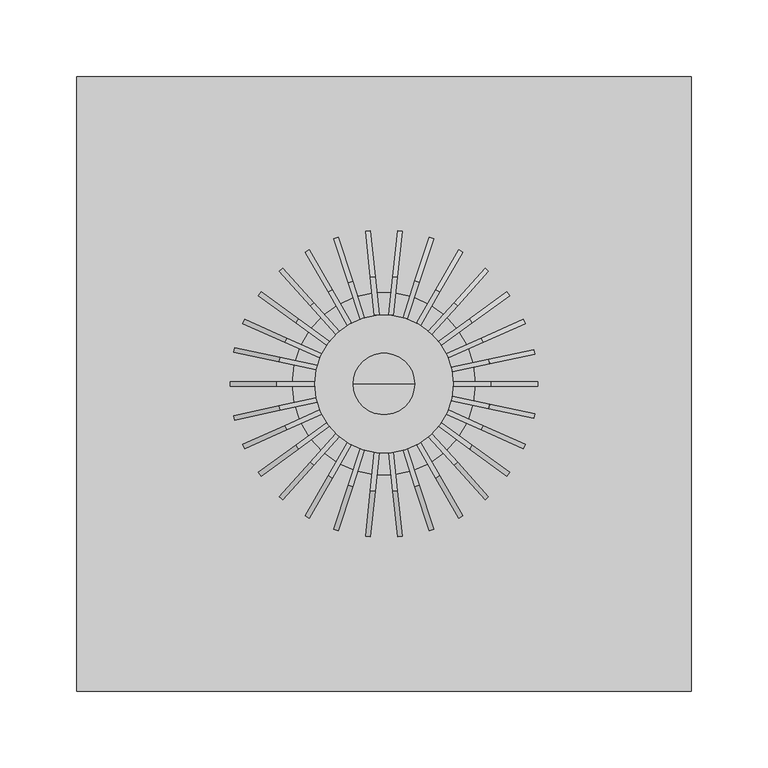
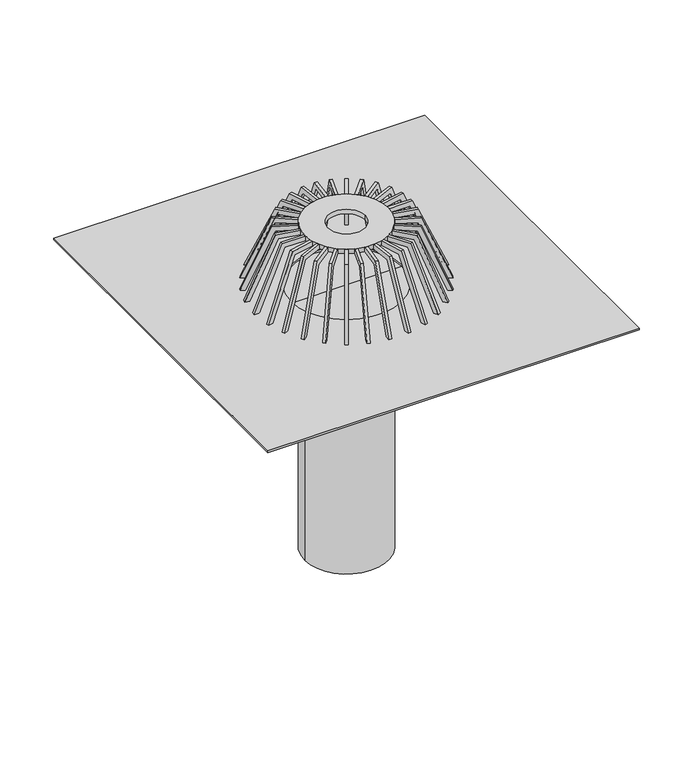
"""IFC4 building model written with IfcOpenShell, lengths in millimetres: sanitary terminal geometry, NLRS_52_PF_LB_trechter met aansluitplaat ø90mm_geb : d90 - 5.5L/s."""

import ifcopenshell
import ifcopenshell.guid

model = None  # the IFC model being written
_history = None  # IfcOwnerHistory: only IFC2X3 demands one
_inside = {}  # id of a spatial element -> (the spatial element, [elements in it])
_under = {}  # id of a project, library or spatial element -> (it, [spatial elements below it])
_declared = {}  # id of a project -> (the project, [libraries it declares])
_typed = {}  # id of a type object -> (the type object, [elements of that type])
_made_of = {}  # id of a material, layer set ... -> (it, [elements and type objects made of it])


def new_model(schema):
    """Start an empty IFC model of exactly this schema.

    Asked for "IFC4X3", IfcOpenShell would pick the latest addendum, in which some entities
    have other attributes; the version numbers below select the first issue.
    IFC2X3 requires an IfcOwnerHistory on every rooted entity: one is made here for all.
    """
    global model, _history
    if schema == "IFC4X3":
        model = ifcopenshell.file(schema_version=(4, 3, 0, 0))
    else:
        model = ifcopenshell.file(schema=schema)
    _inside.clear()
    _under.clear()
    _declared.clear()
    _typed.clear()
    _made_of.clear()
    _history = None
    if model.schema == "IFC2X3":
        org = make("IfcOrganization", Name="unknown")
        user = make(
            "IfcPersonAndOrganization",
            ThePerson=make("IfcPerson", FamilyName="unknown"),
            TheOrganization=org,
        )
        app = make(
            "IfcApplication",
            ApplicationDeveloper=org,
            Version="unknown",
            ApplicationFullName="unknown",
            ApplicationIdentifier="unknown",
        )
        _history = make(
            "IfcOwnerHistory",
            OwningUser=user,
            OwningApplication=app,
            ChangeAction="ADDED",
            CreationDate=0,
        )
    return model


def make(cls, **values):
    """One entity of the class cls with the attributes given. An attribute that is None is left unset."""
    return model.create_entity(
        cls, **{name: value for name, value in values.items() if value is not None}
    )


def rooted(cls, **values):
    """An entity with a GlobalId (a new one), such as an element, a storey or a relation."""
    return make(cls, GlobalId=ifcopenshell.guid.new(), OwnerHistory=_history, **values)


def si_unit(unit_type, name, prefix=None):
    """IfcSIUnit, for example si_unit("LENGTHUNIT", "METRE", prefix="MILLI")."""
    return make("IfcSIUnit", UnitType=unit_type, Prefix=prefix, Name=name)


def assignment(units):
    """IfcUnitAssignment: the units of a project."""
    return None if units is None else make("IfcUnitAssignment", Units=units)


def point(xyz):
    """IfcCartesianPoint."""
    return None if xyz is None else make("IfcCartesianPoint", Coordinates=xyz)


def direction(xyz):
    """IfcDirection."""
    return None if xyz is None else make("IfcDirection", DirectionRatios=xyz)


def frame(location, z_axis=None, x_axis=None):
    """IfcAxis2Placement3D, a coordinate frame: its origin and axes. An axis left out is left unset."""
    return make(
        "IfcAxis2Placement3D",
        Location=point(location),
        Axis=direction(z_axis),
        RefDirection=direction(x_axis),
    )


def frame_2d(location, x_axis=None):
    """IfcAxis2Placement2D, a coordinate frame in the plane: its origin and x axis."""
    return make(
        "IfcAxis2Placement2D", Location=point(location), RefDirection=direction(x_axis)
    )


def origin():
    """The frame at (0, 0, 0) with its axes left unset."""
    return frame((0.0, 0.0, 0.0))


def origin_2d():
    """The frame at (0, 0) in the plane with its x axis left unset."""
    return frame_2d((0.0, 0.0))


def place(relative_to, where):
    """IfcLocalPlacement: puts the frame where relative to a parent placement (None: the world)."""
    return make(
        "IfcLocalPlacement", PlacementRelTo=relative_to, RelativePlacement=where
    )


def context(
    kind, dimensions, precision=None, world=None, true_north=None, identifier=None
):
    """IfcGeometricRepresentationContext, for example the 3D "Model" context."""
    return make(
        "IfcGeometricRepresentationContext",
        ContextIdentifier=identifier,
        ContextType=kind,
        CoordinateSpaceDimension=dimensions,
        Precision=precision,
        WorldCoordinateSystem=world,
        TrueNorth=true_north,
    )


def project(units=None, contexts=None):
    """IfcProject with its units and contexts."""
    return rooted(
        "IfcProject",
        Name="project",
        RepresentationContexts=contexts,
        UnitsInContext=assignment(units),
    )


def spatial(cls, under=None, at=None, **own):
    """A site, building, storey or space (cls), placed at a placement, below another one or the project."""
    s = rooted(cls, ObjectPlacement=at, **own)
    if under is not None:
        _under.setdefault(under.id(), (under, []))[1].append(s)
    return s


def polyline(points):
    """IfcPolyline through the points."""
    return make("IfcPolyline", Points=[point(p) for p in points])


def circle_curve(where, radius):
    """IfcCircle in the frame where."""
    return make("IfcCircle", Position=where, Radius=radius)


def trimmed(basis, trim1, trim2, sense, master):
    """IfcTrimmedCurve: the piece of a basis curve between two trims."""
    return make(
        "IfcTrimmedCurve",
        BasisCurve=basis,
        Trim1=trim1,
        Trim2=trim2,
        SenseAgreement=sense,
        MasterRepresentation=master,
    )


def segment(curve, same_sense, transition):
    """IfcCompositeCurveSegment."""
    return make(
        "IfcCompositeCurveSegment",
        Transition=transition,
        SameSense=same_sense,
        ParentCurve=curve,
    )


def composite_curve(segments, self_intersect=None):
    """IfcCompositeCurve: segments joined end to end."""
    return make("IfcCompositeCurve", Segments=segments, SelfIntersect=self_intersect)


def outline(outer, holes=None, kind="AREA"):
    """IfcArbitraryClosedProfileDef: a profile drawn as a closed curve; with holes, ...WithVoids."""
    if holes is None:
        return make("IfcArbitraryClosedProfileDef", ProfileType=kind, OuterCurve=outer)
    return make(
        "IfcArbitraryProfileDefWithVoids",
        ProfileType=kind,
        OuterCurve=outer,
        InnerCurves=holes,
    )


def extrude(swept, where, along, depth):
    """IfcExtrudedAreaSolid: the profile swept, set in the frame where, extruded along a direction by depth."""
    return make(
        "IfcExtrudedAreaSolid",
        SweptArea=swept,
        Position=where,
        ExtrudedDirection=direction(along),
        Depth=depth,
    )


def shape(context_of_items, identifier, shape_type, items):
    """IfcShapeRepresentation: the items that make up one representation, for example the "Body"."""
    return make(
        "IfcShapeRepresentation",
        ContextOfItems=context_of_items,
        RepresentationIdentifier=identifier,
        RepresentationType=shape_type,
        Items=items,
    )


def source(mapping_origin, context_of_items, identifier, shape_type, items):
    """IfcRepresentationMap: a shape defined once, which mapped items show again and again."""
    return make(
        "IfcRepresentationMap",
        MappingOrigin=mapping_origin,
        MappedRepresentation=shape(context_of_items, identifier, shape_type, items),
    )


def transform(
    local_origin,
    x_axis=None,
    y_axis=None,
    z_axis=None,
    scale=None,
    scale2=None,
    scale3=None,
    uniform=True,
):
    """IfcCartesianTransformationOperator3D, or its non-uniform kind. x_axis, y_axis, z_axis: its Axis1, 2, 3."""
    if uniform:
        return make(
            "IfcCartesianTransformationOperator3D",
            Axis1=direction(x_axis),
            Axis2=direction(y_axis),
            LocalOrigin=point(local_origin),
            Scale=scale,
            Axis3=direction(z_axis),
        )
    return make(
        "IfcCartesianTransformationOperator3DnonUniform",
        Axis1=direction(x_axis),
        Axis2=direction(y_axis),
        LocalOrigin=point(local_origin),
        Scale=scale,
        Axis3=direction(z_axis),
        Scale2=scale2,
        Scale3=scale3,
    )


def mapped(mapping_source, mapping_target):
    """IfcMappedItem: shows the shape of a source again, moved by a transform."""
    return make(
        "IfcMappedItem", MappingSource=mapping_source, MappingTarget=mapping_target
    )


def made_of(thing, what):
    """Note that an element or type object is made of a material, layer set ...; save() writes the relation."""
    if what is not None:
        _made_of.setdefault(what.id(), (what, []))[1].append(thing)
    return thing


def element(
    cls,
    number,
    at=None,
    inside=None,
    cuts=None,
    type_object=None,
    material=None,
    context=None,
    identifier="Body",
    shape_type=None,
    held_by="IfcProductDefinitionShape",
    body=None,
    shapes=None,
    **own,
):
    """One element of the class cls, such as IfcWall. Its Tag is "e" and its number.

    at: its placement. inside: the storey or other place that contains it. cuts: it is an
    opening in that element (IfcRelVoidsElement). A single representation is given by context,
    identifier, shape_type and body (its items); several are given by shapes. held_by: the class
    of the entity that holds the representations. save() writes the other relations.
    """
    e = rooted(cls, Tag="e%d" % number, ObjectPlacement=at, **own)
    if body is not None:
        shapes = [shape(context, identifier, shape_type, body)]
    if shapes is not None:
        e.Representation = make(held_by, Representations=shapes)
    if inside is not None:
        _inside.setdefault(inside.id(), (inside, []))[1].append(e)
    if cuts is not None:
        rooted(
            "IfcRelVoidsElement", RelatingBuildingElement=cuts, RelatedOpeningElement=e
        )
    if type_object is not None:
        _typed.setdefault(type_object.id(), (type_object, []))[1].append(e)
    return made_of(e, material)


def aggregate(whole, parts):
    """IfcRelAggregates: a whole, such as a stair, and the parts it consists of."""
    return rooted("IfcRelAggregates", RelatingObject=whole, RelatedObjects=parts)


def save(model, path):
    """Write the relations noted so far, then the file.

    IfcRelAggregates (storeys below a building ...), IfcRelContainedInSpatialStructure (elements
    in a storey), IfcRelDefinesByType, IfcRelAssociatesMaterial and IfcRelDeclares: one each for
    every whole, place, type object, material and project.
    """
    for whole, parts in _under.values():
        aggregate(whole, parts)
    for where, things in _inside.values():
        rooted(
            "IfcRelContainedInSpatialStructure",
            RelatedElements=things,
            RelatingStructure=where,
        )
    for kind, things in _typed.values():
        rooted("IfcRelDefinesByType", RelatedObjects=things, RelatingType=kind)
    for what, things in _made_of.values():
        rooted("IfcRelAssociatesMaterial", RelatedObjects=things, RelatingMaterial=what)
    for by, libraries in _declared.values():
        rooted("IfcRelDeclares", RelatingContext=by, RelatedDefinitions=libraries)
    model.write(path)


def plane_surface(at):
    """IfcPlane: the flat surface through the origin of the frame at, square to its z axis."""
    return make("IfcPlane", Position=at)


def cylinder_surface(at, radius):
    """IfcCylindricalSurface: all points at the distance radius from the z axis of the frame at."""
    return make("IfcCylindricalSurface", Position=at, Radius=radius)


def revolved_surface(curve, axis_point, axis_direction):
    """IfcSurfaceOfRevolution: the curve turned about the line through axis_point along axis_direction."""
    return make(
        "IfcSurfaceOfRevolution",
        SweptCurve=make("IfcArbitraryOpenProfileDef", ProfileType="CURVE", Curve=curve),
        AxisPosition=make("IfcAxis1Placement", Location=point(axis_point), Axis=direction(axis_direction)),
    )


def advanced_brep(points, edges, surfaces, faces):
    """IfcAdvancedBrep: a solid bounded by faces that lie on surfaces and meet in shared edges.

    An edge is (start, end): straight between two places in points (the first is 0);
    or (start, end, curve); or (start, end, curve, False) where it runs against its curve.
    A face is (place in surfaces, loops), or (place, loops, False) where it looks against
    its surface's normal. A loop lists edges by number (the first is 1), with a minus sign
    where the edge is run from its end to its start. The first loop is the outer one.
    """
    corners = [point(p) for p in points]
    vertices = [make("IfcVertexPoint", VertexGeometry=c) for c in corners]
    made = []
    for start, end, *more in edges:
        made.append(
            make(
                "IfcEdgeCurve",
                EdgeStart=vertices[start],
                EdgeEnd=vertices[end],
                EdgeGeometry=more[0] if more else make("IfcPolyline", Points=[corners[start], corners[end]]),
                SameSense=more[1] if len(more) > 1 else True,
            )
        )
    hull = []
    for where, loops, *sense in faces:
        bounds = []
        for j, loop in enumerate(loops):
            ring = [make("IfcOrientedEdge", EdgeElement=made[abs(k) - 1], Orientation=k > 0) for k in loop]
            bounds.append(
                make(
                    "IfcFaceOuterBound" if j == 0 else "IfcFaceBound",
                    Bound=make("IfcEdgeLoop", EdgeList=ring),
                    Orientation=True,
                )
            )
        hull.append(make("IfcAdvancedFace", Bounds=bounds, FaceSurface=surfaces[where], SameSense=sense[0] if sense else True))
    return make("IfcAdvancedBrep", Outer=make("IfcClosedShell", CfsFaces=hull))


def sanitary_terminal_6ba0c00f(model_context):
    return source(origin(), model_context, "Body", "SolidModel", [
        extrude(outline(polyline([(-5.0, 0.0), (0.0, 0.0), (-30.0, -70.0), (-55.0, -70.0), (-55.0, -65.0), (-32.8571428, -65.0), (-5.0, 0.0)])), frame((68.0277779, 73.3107866, 0.0), z_axis=(-0.7431448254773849, 0.6691306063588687, 0.0), x_axis=(0.6691306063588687, 0.7431448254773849, 0.0)), (0.0, 0.0, 1.0), 3.0),
        extrude(outline(composite_curve([segment(trimmed(circle_curve(origin_2d(), 45.0), [point((45.0, 0.0))], [point((-45.0, 0.0))], False, "CARTESIAN"), True, "CONTINUOUS"), segment(trimmed(circle_curve(origin_2d(), 45.0), [point((-45.0, 0.0))], [point((45.0, 0.0))], False, "CARTESIAN"), True, "CONTINUOUS")], self_intersect=False), holes=[composite_curve([segment(trimmed(circle_curve(origin_2d(), 20.0), [point((20.0, 0.0))], [point((-20.0, 0.0))], True, "CARTESIAN"), True, "CONTINUOUS"), segment(trimmed(circle_curve(origin_2d(), 20.0), [point((-20.0, 0.0))], [point((20.0, 0.0))], True, "CARTESIAN"), True, "CONTINUOUS")], self_intersect=False)]), frame((0.0, 0.0, 65.0), z_axis=(0.0, 0.0, 1.0), x_axis=(1.0, 0.0, 0.0)), (0.0, 0.0, 1.0), 5.0),
        extrude(outline(polyline([(0.0, 0.0), (1.9695965, -4.5957252), (-74.1881346, -4.5957252), (-84.036117, 18.3829006), (-79.4403919, 20.3524971), (-70.7178931, 0.0), (0.0, 0.0)])), frame((62.4526904, -71.6024543, 0.0), z_axis=(0.7431448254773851, 0.6691306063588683, 0.0), x_axis=(0.2635834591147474, -0.29273908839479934, -0.9191450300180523)), (0.0, 0.0, 1.0), 3.0),
        extrude(outline(polyline([(0.0, 0.0), (1.9695965, -4.5957252), (-74.1881346, -4.5957252), (-84.036117, 18.3829006), (-79.4403919, 20.3524971), (-70.7178931, -1e-07), (0.0, 0.0)])), frame((92.6121545, -21.218832, 0.0), z_axis=(0.20791169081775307, 0.978147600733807, 0.0), x_axis=(0.3853112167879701, -0.08190042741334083, -0.9191450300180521)), (0.0, 0.0, 1.0), 3.0),
        extrude(outline(polyline([(0.0, 0.0), (1.9695965, -4.5957251), (-74.1881346, -4.5957251), (-84.0361171, 18.3829007), (-79.4403919, 20.3524971), (-70.7178931, 0.0), (0.0, 0.0)])), frame((75.9871909, -57.0620277, 0.0), z_axis=(0.5877852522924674, 0.8090169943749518, 0.0), x_axis=(0.31868740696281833, -0.23153995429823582, -0.9191450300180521)), (0.0, 0.0, 1.0), 3.0),
        extrude(outline(polyline([(0.0, 0.0), (1.9695965, -4.5957252), (-74.1881346, -4.5957252), (-84.036117, 18.3829006), (-79.4403919, 20.3524971), (-70.7178931, 0.0), (0.0, 0.0)])), frame((86.1767135, -40.0102993, 0.0), z_axis=(0.4067366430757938, 0.9135454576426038, 0.0), x_axis=(0.3598631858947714, -0.16022141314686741, -0.9191450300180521)), (0.0, 0.0, 1.0), 3.0),
        extrude(outline(polyline([(5.0, 0.0), (32.8571429, -65.0), (55.0, -65.0), (55.0, -70.0), (30.0, -70.0), (0.0, 0.0), (5.0, 0.0)])), frame((-90.7444408, -42.0439825, 0.0), z_axis=(-0.40673664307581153, 0.9135454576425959, 0.0), x_axis=(0.9135454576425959, 0.40673664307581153, 0.0)), (0.0, 0.0, 1.0), 3.0),
        extrude(outline(polyline([(5.0, 0.0), (32.8571428, -65.0), (55.0, -65.0), (55.0, -70.0), (30.0, -70.0), (0.0, 0.0), (5.0, 0.0)])), frame((-97.2430273, -23.4809602, 0.0), z_axis=(-0.20791169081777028, 0.9781476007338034, 0.0), x_axis=(0.9781476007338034, 0.20791169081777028, 0.0)), (0.0, 0.0, 1.0), 3.0),
        extrude(outline(polyline([(-5.0, 0.0), (0.0, 0.0), (-30.0, -70.0), (-55.0, -70.0), (-55.0, -65.0), (-32.8571428, -65.0), (-5.0, 0.0)])), frame((48.7009619, -87.3525404, 0.0), z_axis=(0.8660254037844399, 0.4999999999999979, 0.0), x_axis=(0.4999999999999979, -0.8660254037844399, 0.0)), (0.0, 0.0, 1.0), 3.0),
        extrude(outline(polyline([(-5.0, 0.0), (0.0, 0.0), (-30.0, -70.0), (-55.0, -70.0), (-55.0, -65.0), (-32.8571429, -65.0), (-5.0, 0.0)])), frame((29.4751147, -95.5691771, 0.0), z_axis=(0.9510565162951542, 0.30901699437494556, 0.0), x_axis=(0.30901699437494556, -0.9510565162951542, 0.0)), (0.0, 0.0, 1.0), 3.0),
        extrude(outline(polyline([(-4.9999999, 0.0), (0.0, 0.0), (-29.9999999, -70.0), (-55.0, -70.0), (-55.0, -65.0), (-32.8571429, -65.0), (-4.9999999, 0.0)])), frame((8.9610635, -99.6089822, 0.0), z_axis=(0.9945218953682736, 0.10452846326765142, 0.0), x_axis=(0.10452846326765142, -0.9945218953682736, 0.0)), (0.0, 0.0, 1.0), 3.0),
        extrude(outline(polyline([(4.9999999, 0.0), (32.8571429, -65.0), (55.0, -65.0), (55.0, -70.0), (29.9999999, -70.0), (0.0, 0.0), (4.9999999, 0.0)])), frame((-8.9610635, -99.6089822, 0.0), z_axis=(-0.9945218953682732, 0.10452846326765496, 0.0), x_axis=(0.10452846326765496, 0.9945218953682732, 0.0)), (0.0, 0.0, 1.0), 3.0),
        extrude(outline(polyline([(5.0, 0.0), (32.8571429, -65.0), (55.0, -65.0), (55.0, -70.0), (30.0, -70.0), (0.0, 0.0), (5.0, 0.0)])), frame((-29.7068456, -95.4938832, 0.0), z_axis=(-0.9510565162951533, 0.30901699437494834, 0.0), x_axis=(0.30901699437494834, 0.9510565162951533, 0.0)), (0.0, 0.0, 1.0), 3.0),
        extrude(outline(polyline([(5.0, 0.0), (32.8571428, -65.0), (55.0, -65.0), (55.0, -70.0), (30.0, -70.0), (0.0, 0.0), (5.0, 0.0)])), frame((-48.7009619, -87.3525404, 0.0), z_axis=(-0.866025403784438, 0.5000000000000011, 0.0), x_axis=(0.5000000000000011, 0.866025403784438, 0.0)), (0.0, 0.0, 1.0), 3.0),
        extrude(outline(polyline([(5.0, 0.0), (32.8571428, -65.0), (55.0, -65.0), (55.0, -70.0), (30.0, -70.0), (0.0, 0.0), (5.0, 0.0)])), frame((-65.7983434, -75.3181785, 0.0), z_axis=(-0.7431448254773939, 0.6691306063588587, 0.0), x_axis=(0.6691306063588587, 0.7431448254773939, 0.0)), (0.0, 0.0, 1.0), 3.0),
        extrude(outline(polyline([(5.0, 0.0), (32.8571429, -65.0), (55.0, -65.0), (55.0, -70.0), (30.0, -70.0), (0.0, 0.0), (5.0, 0.0)])), frame((-80.0200216, -59.9920507, 0.0), z_axis=(-0.5877852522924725, 0.809016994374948, 0.0), x_axis=(0.809016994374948, 0.5877852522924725, 0.0)), (0.0, 0.0, 1.0), 3.0),
        extrude(outline(polyline([(-5.0, 0.0), (0.0, 0.0), (-30.0, -70.0), (-55.0, -70.0), (-55.0, -65.0), (-32.8571428, -65.0), (-5.0, 0.0)])), frame((98.1266276, 19.3239477, 0.0), z_axis=(-0.2079116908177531, 0.978147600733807, 0.0), x_axis=(0.978147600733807, 0.2079116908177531, 0.0)), (0.0, 0.0, 1.0), 3.0),
        extrude(outline(polyline([(-5.0, 0.0), (0.0, 0.0), (-30.0, -70.0), (-55.0, -70.0), (-55.0, -65.0), (-32.8571429, -65.0), (-5.0, 0.0)])), frame((81.7956316, 57.573903, 0.0), z_axis=(-0.5877852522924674, 0.8090169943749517, 0.0), x_axis=(0.8090169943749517, 0.5877852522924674, 0.0)), (0.0, 0.0, 1.0), 3.0),
        extrude(outline(polyline([(-5.0, 0.0), (0.0, 0.0), (-30.0, -70.0), (-54.9999999, -70.0), (-54.9999999, -65.0), (-32.8571429, -65.0), (-5.0, 0.0)])), frame((91.9646507, 39.3033461, 0.0), z_axis=(-0.4067366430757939, 0.9135454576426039, 0.0), x_axis=(0.9135454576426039, 0.4067366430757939, 0.0)), (0.0, 0.0, 1.0), 3.0),
        extrude(outline(polyline([(0.0, 0.0), (70.7178931, 0.0), (79.4403918, 20.352497), (84.036117, 18.3829005), (74.1881346, -4.5957252), (-1.9695965, -4.5957252), (0.0, 0.0)])), frame((-87.3969234, 37.2696629, 0.0), z_axis=(0.4067366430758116, 0.9135454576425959, 0.0), x_axis=(0.35986318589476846, -0.16022141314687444, 0.9191450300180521)), (0.0, 0.0, 1.0), 3.0),
        extrude(outline(polyline([(0.0, 0.0), (70.7178931, 1e-07), (79.4403919, 20.3524971), (84.036117, 18.3829006), (74.1881346, -4.5957252), (-1.9695965, -4.5957252), (0.0, 0.0)])), frame((-92.9760244, 19.5069589, 0.0), z_axis=(0.2079116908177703, 0.9781476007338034, 0.0), x_axis=(0.3853112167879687, -0.08190042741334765, 0.9191450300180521)), (0.0, 0.0, 1.0), 3.0),
        extrude(outline(polyline([(0.0, 0.0), (1.9695965, -4.5957251), (-74.1881346, -4.5957251), (-84.036117, 18.3829006), (-79.4403919, 20.3524971), (-70.7178931, 0.0), (0.0, 0.0)])), frame((48.7990381, 81.5224134, 0.0), z_axis=(-0.8660254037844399, 0.4999999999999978, 0.0), x_axis=(0.19695964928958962, 0.34114411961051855, -0.9191450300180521)), (0.0, 0.0, 1.0), 3.0),
        extrude(outline(polyline([(0.0, 0.0), (1.9695965, -4.5957251), (-74.1881346, -4.5957251), (-84.0361171, 18.3829007), (-79.4403919, 20.3524972), (-70.7178931, 0.0), (0.0, 0.0)])), frame((30.7831992, 89.8868436, 0.0), z_axis=(-0.9510565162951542, 0.30901699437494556, 0.0), x_axis=(0.1217277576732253, 0.3746395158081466, -0.9191450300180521)), (0.0, 0.0, 1.0), 3.0),
        extrude(outline(polyline([(0.0, 0.0), (1.9695965, -4.5957251), (-74.1881346, -4.5957251), (-84.036117, 18.3829006), (-79.4403919, 20.3524971), (-70.7178931, 0.0), (0.0, 0.0)])), frame((11.4219869, 94.3227874, 0.0), z_axis=(-0.9945218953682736, 0.10452846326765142, 0.0), x_axis=(0.04117577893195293, 0.3917613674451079, -0.9191450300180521)), (0.0, 0.0, 1.0), 3.0),
        extrude(outline(polyline([(0.0, 0.0), (70.7178931, 0.0), (79.4403919, 20.3524971), (84.036117, 18.3829006), (74.1881346, -4.5957251), (-1.9695965, -4.5957251), (0.0, 0.0)])), frame((-11.4219869, 94.3227874, 0.0), z_axis=(0.9945218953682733, 0.10452846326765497, 0.0), x_axis=(0.04117577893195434, -0.3917613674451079, 0.9191450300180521)), (0.0, 0.0, 1.0), 3.0),
        extrude(outline(polyline([(0.0, 0.0), (70.7178931, -1e-07), (79.4403919, 20.3524971), (84.036117, 18.3829006), (74.1881346, -4.5957252), (-1.9695965, -4.5957252), (0.0, 0.0)])), frame((-31.0149302, 89.8115496, 0.0), z_axis=(0.9510565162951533, 0.30901699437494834, 0.0), x_axis=(0.1217277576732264, -0.37463951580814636, 0.9191450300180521)), (0.0, 0.0, 1.0), 3.0),
        extrude(outline(polyline([(0.0, 0.0), (70.7178931, 0.0), (79.4403919, 20.3524971), (84.036117, 18.3829006), (74.1881346, -4.5957251), (-1.9695965, -4.5957251), (0.0, 0.0)])), frame((-48.7990381, 81.5224134, 0.0), z_axis=(0.866025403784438, 0.5000000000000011, 0.0), x_axis=(0.196959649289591, -0.34114411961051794, 0.9191450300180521)), (0.0, 0.0, 1.0), 3.0),
        extrude(outline(polyline([(0.0, 0.0), (70.7178931, 0.0), (79.4403919, 20.3524971), (84.036117, 18.3829006), (74.1881345, -4.5957252), (-1.9695965, -4.5957252), (0.0, 0.0)])), frame((-64.6821248, 69.5950625, 0.0), z_axis=(0.7431448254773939, 0.6691306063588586, 0.0), x_axis=(0.2635834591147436, -0.29273908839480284, 0.9191450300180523)), (0.0, 0.0, 1.0), 3.0),
        extrude(outline(polyline([(0.0, 0.0), (70.7178931, 0.0), (79.4403919, 20.3524971), (84.036117, 18.3829006), (74.1881345, -4.5957252), (-1.9695965, -4.5957251), (0.0, 0.0)])), frame((-77.7382923, 54.6260735, 0.0), z_axis=(0.5877852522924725, 0.8090169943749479, 0.0), x_axis=(0.31868740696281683, -0.2315399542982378, 0.9191450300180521)), (0.0, 0.0, 1.0), 3.0),
        extrude(outline(polyline([(0.0, -95.0), (65.0, -67.1428571), (65.0, -45.0), (70.0, -45.0), (70.0, -70.0), (0.0, -100.0), (0.0, -95.0)])), frame((0.0, -1.5, 0.0), z_axis=(0.0, 1.0, 0.0), x_axis=(0.0, 0.0, 1.0)), (0.0, 0.0, 1.0), 3.0),
        extrude(outline(polyline([(0.0, 95.0), (0.0, 100.0), (70.0, 70.0), (70.0, 45.0), (65.0, 45.0), (65.0, 67.1428571), (0.0, 95.0)])), frame((0.0, -1.5, 0.0), z_axis=(0.0, 1.0, 0.0), x_axis=(0.0, 0.0, 1.0)), (0.0, 0.0, 1.0), 3.0),
        extrude(outline(polyline([(200.0, 200.0), (200.0, -200.0), (-200.0, -200.0), (-200.0, 200.0), (200.0, 200.0)]), holes=[composite_curve([segment(trimmed(circle_curve(origin_2d(), 59.5671458), [point((-59.5671458, 0.0))], [point((59.5671458, 0.0))], True, "CARTESIAN"), True, "CONTINUOUS"), segment(trimmed(circle_curve(origin_2d(), 59.5671458), [point((59.5671458, 0.0))], [point((-59.5671458, 0.0))], True, "CARTESIAN"), True, "CONTINUOUS")], self_intersect=False)]), frame((0.0, 0.0, -2.0), z_axis=(0.0, 0.0, 1.0), x_axis=(1.0, 0.0, 0.0)), (0.0, 0.0, 1.0), 2.0),
        advanced_brep(
        [(0.0, 0.0, -300.0), (-45.0, 0.0, -300.0), (45.0, 0.0, -300.0), (59.5671458, 0.0, -2.0), (-59.5671458, 0.0, -2.0), (0.0, 0.0, -2.0), (45.0, 0.0, -35.0), (-45.0, 0.0, -35.0)],
        [
            (0, 1),
            (1, 2, circle_curve(frame((0.0, 0.0, -300.0), z_axis=(0.0, 0.0, -1.0), x_axis=(-1.0, 0.0, 0.0)), 45.0)),
            (2, 0),
            (2, 1, circle_curve(frame((0.0, 0.0, -300.0), z_axis=(0.0, 0.0, -1.0), x_axis=(-1.0, 0.0, 0.0)), 45.0)),
            (3, 4, circle_curve(frame((0.0, 0.0, -2.0), z_axis=(0.0, 0.0, 1.0), x_axis=(-1.0, 0.0, 0.0)), 59.5671458)),
            (4, 5),
            (5, 3),
            (4, 3, circle_curve(frame((0.0, 0.0, -2.0), z_axis=(0.0, 0.0, 1.0), x_axis=(-1.0, 0.0, 0.0)), 59.5671458)),
            (6, 7, circle_curve(frame((0.0, 0.0, -35.0), z_axis=(0.0, 0.0, 1.0), x_axis=(-1.0, 0.0, 0.0)), 45.0)),
            (7, 4),
            (3, 6),
            (7, 6, circle_curve(frame((0.0, 0.0, -35.0), z_axis=(0.0, 0.0, 1.0), x_axis=(-1.0, 0.0, 0.0)), 45.0)),
            (1, 7),
            (6, 2),
        ],
        [
            plane_surface(frame((0.0, 0.0, -300.0), z_axis=(0.0, 0.0, -1.0), x_axis=(-1.0, 0.0, 0.0))),
            plane_surface(frame((0.0, 0.0, -2.0), z_axis=(0.0, 0.0, 1.0), x_axis=(-1.0, 0.0, 0.0))),
            revolved_surface(polyline([(-59.5671458, 0.0, -2.0), (-45.0, 0.0, -35.0)]), (0.0, 0.0, -1.0194243), (0.0, 0.0, -1.0)),
            cylinder_surface(frame((0.0, 0.0, -1.0194243), z_axis=(0.0, 0.0, -1.0), x_axis=(-1.0, 0.0, 0.0)), 45.0),
        ],
        [
            (0, [[1, 2, 3]]),
            (0, [[-3, 4, -1]]),
            (1, [[5, 6, 7]]),
            (1, [[8, -7, -6]]),
            (2, [[9, 10, -5, 11]]),
            (2, [[12, -11, -8, -10]]),
            (3, [[-2, 13, -9, 14]]),
            (3, [[-4, -14, -12, -13]]),
        ],
    ),
    ])


if __name__ == "__main__":
    model = new_model("IFC4")
    model_context = context("Model", 3, world=origin())
    ifc_project = project(units=[si_unit("LENGTHUNIT", "METRE", prefix="MILLI")], contexts=[model_context])
    site = spatial("IfcSite", under=ifc_project)
    building = spatial("IfcBuilding", under=site)
    placement = place(None, origin())
    sanitary_terminal_shape = sanitary_terminal_6ba0c00f(model_context)
    element("IfcSanitaryTerminal", 1, ObjectType="NLRS_52_PF_LB_trechter met aansluitplaat ø90mm_geb : d90 - 5.5L/s", at=placement, inside=building, context=model_context, shape_type="MappedRepresentation", body=[
        mapped(sanitary_terminal_shape, transform((0.0, 0.0, 0.0), x_axis=(1.0, 0.0, 0.0), y_axis=(0.0, 1.0, 0.0), z_axis=(0.0, 0.0, 1.0))),
    ])
    save(model, "model.ifc")
